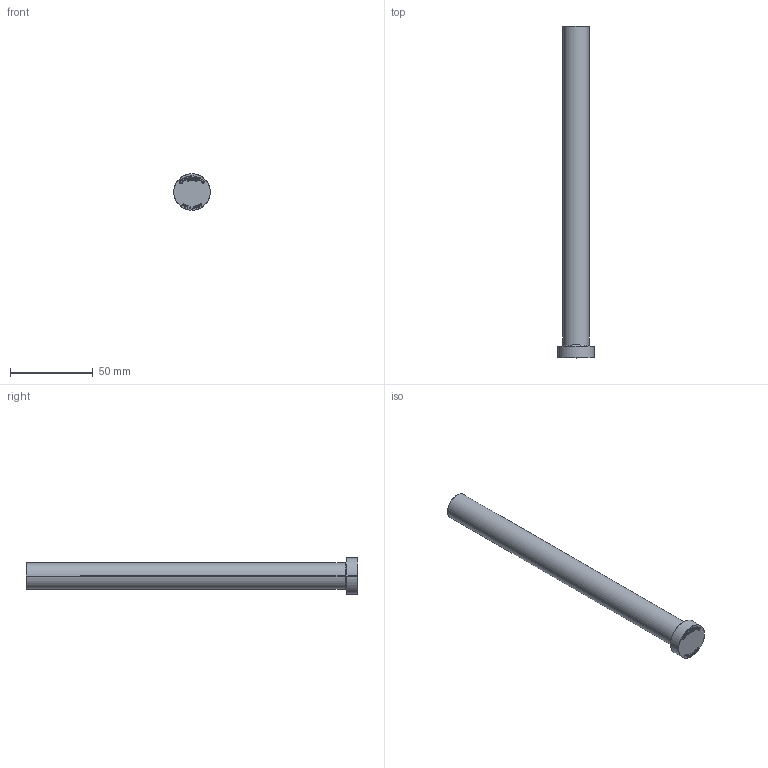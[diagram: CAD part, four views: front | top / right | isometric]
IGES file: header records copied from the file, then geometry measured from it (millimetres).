
Start section: SolidWorks IGES file using analytic representation for surfaces
Global section: file name: C:\Users\User\Downloads\Matripeça 31-08 tar\PB - PINO EXTRATOR TIPO _B_ (CATÁLOGO)\PB16,0\PB16,0200.IGS; native system: SolidWorks 2024; preprocessor: SolidWorks 2024; author: User; date: 260901.155018; units: millimetre
Bounding box: 22 x 200 x 22 mm (x, y, z)
Surface area: 10945.6 mm2 (no closed solid volume)
Topology: 0 solids, 0 shells, 397 faces, 4210 edges, 4210 vertices
Faces by surface type: bspline 383, revolution 14
